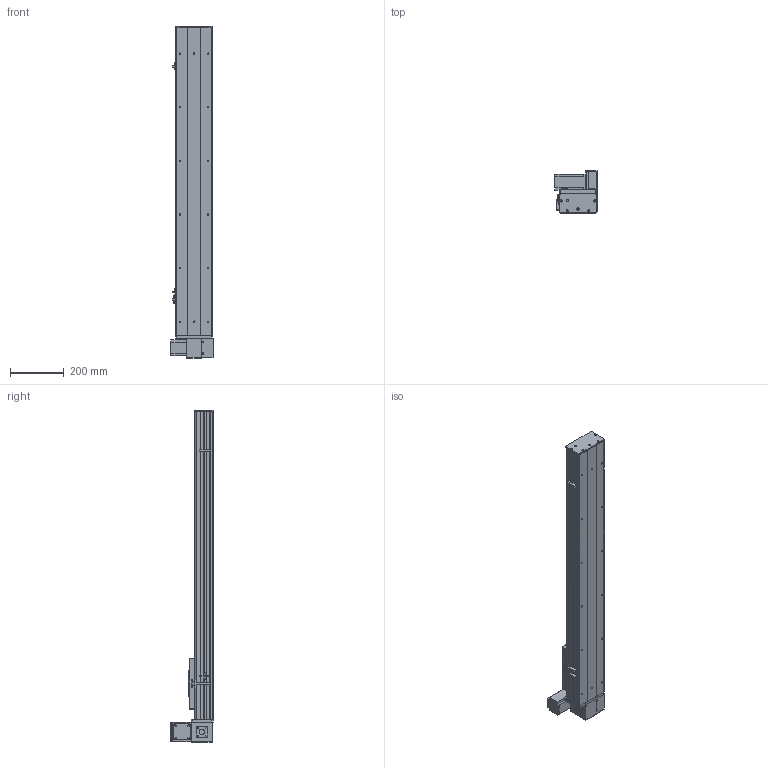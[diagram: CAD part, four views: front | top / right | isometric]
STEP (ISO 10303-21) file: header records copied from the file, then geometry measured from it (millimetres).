
FILE_DESCRIPTION (( 'STEP AP203' ), '1' );
FILE_NAME ('Y135CB-D90-S850-BL-P400W.STEP', '2020-02-18T07:16:48', ( '微软用户' ), ( '微软中国' ), 'SwSTEP 2.0', 'SolidWorks 2017', '' );
FILE_SCHEMA (( 'CONFIG_CONTROL_DESIGN' ));
Length unit declared in the file: millimetre
Products named in the file (18): 0B-源倛裔啣; C-雄赽釱--; 0B-萇儂楊擘啣; Y10B-耜蚾蟀諉啣----; san松下电机400不带刹车----; 00B-俋欶BM--; 5CB --掛极耜裔啣-; Y10B--々湍喘謫眊--666; C-詩湍揤踡え-陔; Y135CB-耜裔; Y135CB-D90-S850-BL-P400W; 135CB--詩湍-CE; 135CB---遴掛极.-; Y100-135俋离換覜ん--; 35CB---喘謫眊楊擘啣; Y135C-陔俋离換覜結え-; 0B-埴倛裔啣; 5C--俋欶
Assembly tree (21 placements, depth 2):
  Y135CB-D90-S850-BL-P400W
    Y135CB-耜裔
    135CB---遴掛极.-
    35CB---喘謫眊楊擘啣
    0B-埴倛裔啣
    0B-源倛裔啣
    0B-萇儂楊擘啣
    san松下电机400不带刹车----
    5CB --掛极耜裔啣-  x2
    C-詩湍揤踡え-陔  x2
    135CB--詩湍-CE
    Y100-135俋离換覜ん--  x3
    Y135C-陔俋离換覜結え-
    5C--俋欶
    C-雄赽釱--
    Y10B-耜蚾蟀諉啣----
    00B-俋欶BM--
    Y10B--々湍喘謫眊--666
Bounding box: 157 x 158.7 x 1238 mm (x, y, z)
Volume: 3996972.9 mm3; surface area: 1559815.7 mm2
Topology: 21 solids, 21 shells, 941 faces, 2509 edges, 1662 vertices
Faces by surface type: cylinder 469, plane 456, cone 16
Entity records: 29147 total; most frequent: DIRECTION 4841, CARTESIAN_POINT 4768, ORIENTED_EDGE 4494, EDGE_CURVE 2247, AXIS2_PLACEMENT_3D 1763, VERTEX_POINT 1490, LINE 1315, VECTOR 1315
